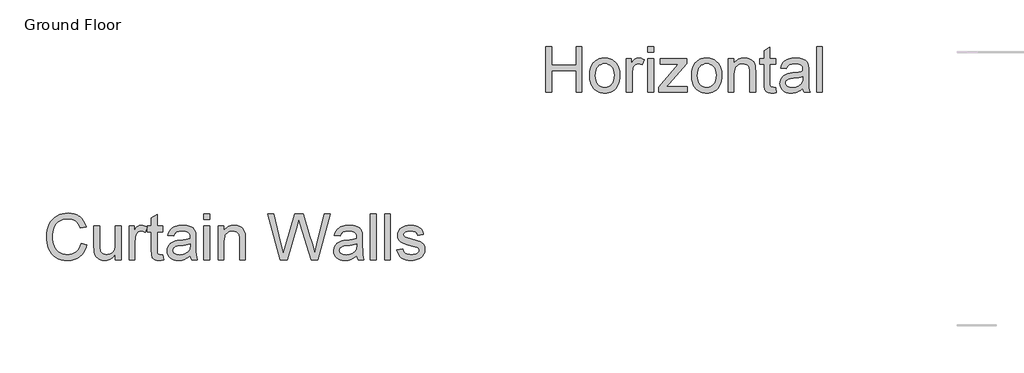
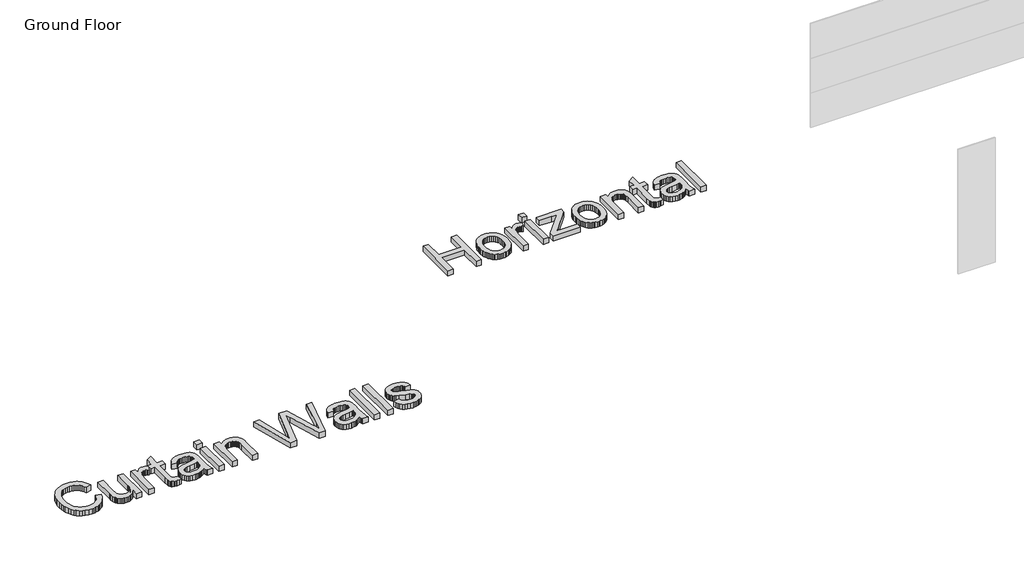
# One storey, part 4 of 5: 2 proxies.
"""IFC4 building model written with IfcOpenShell, lengths in millimetres."""

from ifc_helpers import new_model, si_unit, origin, origin_with_axes, place, context, project, spatial, polyline, outline, extrude, element, save

model = new_model("IFC4")

# Units and contexts
model_context = context("Model", 3, world=origin())
ifc_project = project(units=[si_unit("LENGTHUNIT", "METRE", prefix="MILLI")], contexts=[model_context])

# Site, building, storey
site = spatial("IfcSite", under=ifc_project)
building = spatial("IfcBuilding", under=site)
storey = spatial("IfcBuildingStorey", under=building, Name="Ground Floor", Elevation=0.0)

# Proxies
placement = place(None, origin())
element("IfcBuildingElementProxy", 1, Name="1200mm Arial", ObjectType="1200mm Arial", at=placement, inside=storey, context=model_context, shape_type="SweptSolid", body=[
    extrude(outline(polyline([(-73405.7068137, -17.5087086), (-73258.7977228, -55.3837086), (-73287.8675026, -146.7445929), (-73306.0204234, -188.1008828), (-73326.5853648, -226.5744047), (-73349.5623268, -262.1651584), (-73374.9513094, -294.873144), (-73402.7523126, -324.6983615), (-73432.9653364, -351.6408109), (-73465.2630992, -375.5480597), (-73499.3183194, -396.2676753), (-73535.1309969, -413.7996577), (-73572.7011319, -428.1440069), (-73612.0287242, -439.300723), (-73653.1137739, -447.2698059), (-73695.956281, -452.0512557), (-73740.5562455, -453.6450723), (-73830.1417391, -448.8210311), (-73910.9578791, -434.3489075), (-73983.0046653, -410.2287015), (-74046.2820978, -376.4604132), (-74101.6599387, -333.5461731), (-74150.0079501, -281.988112), (-74191.3261319, -221.7862299), (-74225.6144842, -152.9405268), (-74252.541242, -78.4279203), (-74271.7746404, -1.225328), (-74283.3146795, 78.6672502), (-74287.1613592, 161.2498141), (-74282.8125488, 249.8579462), (-74269.7661177, 332.6198425), (-74248.0220658, 409.535503), (-74217.5803933, 480.6049277), (-74179.122563, 544.6534895), (-74133.3300381, 600.5065612), (-74080.2028187, 648.1641429), (-74019.7409046, 687.6262345), (-73953.9976518, 718.5700378), (-73885.026416, 740.6727544), (-73812.8271972, 753.9343844), (-73737.3999955, 758.3549277), (-73653.3738059, 752.6342246), (-73576.3236461, 735.4721152), (-73540.4145774, 722.6005332), (-73506.2495161, 706.8685996), (-73473.8284623, 688.2763144), (-73443.151416, 666.8236777), (-73414.4784091, 642.7752047), (-73388.0694735, 616.3954107), (-73363.9246093, 587.6842956), (-73342.0438166, 556.6418595), (-73305.0744451, 487.5630243), (-73277.1613592, 409.158905), (-73424.0704501, 374.1532232), (-73447.2043279, 431.9251514), (-73475.0008478, 481.2863908), (-73507.4600097, 522.2369412), (-73544.5818137, 554.7768027), (-73586.5814586, 579.5695051), (-73633.6741433, 597.2785783), (-73685.8598677, 607.9040222), (-73743.1386319, 611.4458368), (-73809.0432839, 607.5184576), (-73869.3168989, 595.7363198), (-73923.9594771, 576.0994235), (-73972.9710183, 548.6077686), (-74015.7328258, 514.4987487), (-74051.6262029, 475.0097573), (-74080.6511496, 430.1407942), (-74102.807666, 379.8918595), (-74119.1896795, 326.5404746), (-74130.8911177, 272.3641607), (-74137.9119806, 217.3629178), (-74140.2522683, 161.5367459), (-74137.4815829, 91.3819164), (-74129.1695268, 25.8179959), (-74115.3160999, -35.1550155), (-74095.9213023, -91.5371177), (-74070.6713023, -142.2074835), (-74039.2522683, -186.0452853), (-74001.6642001, -223.0505233), (-73957.9070978, -253.2231973), (-73910.1060502, -276.6350403), (-73860.3861461, -293.3577853), (-73808.7473854, -303.3914324), (-73755.1897683, -306.7359814), (-73691.3205389, -302.1809388), (-73632.5622825, -288.5158109), (-73578.9149991, -265.7405978), (-73530.3786887, -233.8552995), (-73488.1010786, -193.0033819), (-73453.2298961, -143.3283109), (-73425.7651411, -84.8300865), (-73405.7068137, -17.5087086)])), origin_with_axes(), (0.0, 0.0, 1.0), 150.0),
    extrude(outline(polyline([(-72524.2522683, -435.2814359), (-72524.2522683, -286.9376859), (-72549.7354004, -326.0097296), (-72577.4063876, -359.8721674), (-72607.2652299, -388.5249995), (-72639.3119273, -411.9682257), (-72673.5464799, -430.2018461), (-72709.9688876, -443.2258606), (-72748.5791504, -451.0402694), (-72789.3772683, -453.6450723), (-72825.7727761, -451.8158819), (-72860.9308904, -446.3283109), (-72894.8516113, -437.1823592), (-72927.5349387, -424.3780268), (-72957.5372469, -408.8119757), (-72983.4149103, -391.3808677), (-73005.1679288, -372.084703), (-73022.7963023, -350.9234814), (-73037.2056596, -327.5923379), (-73049.3016291, -301.7864075), (-73066.5534046, -242.7501859), (-73073.0093705, -187.0854132), (-73075.1613592, -106.1706405), (-73075.1613592, 427.8094732), (-72928.2522683, 427.8094732), (-72928.2522683, -37.0200723), (-72926.0285467, -129.9859814), (-72919.3573819, -186.7984814), (-72910.5611283, -213.2769082), (-72897.945095, -236.7604842), (-72881.5092817, -257.2492093), (-72861.2536887, -274.7430836), (-72837.788046, -288.7399764), (-72811.7220836, -298.7377569), (-72783.0558016, -304.7364253), (-72751.7892001, -306.7359814), (-72719.5900701, -304.6915922), (-72688.4131347, -298.5584245), (-72658.258394, -288.3364785), (-72629.1258478, -274.0257541), (-72602.5936212, -256.1911483), (-72580.2398393, -235.3975581), (-72562.0645019, -211.6449835), (-72548.0676092, -184.9334245), (-72537.6483975, -153.5592236), (-72530.2061035, -115.8187228), (-72525.7407271, -71.7119224), (-72524.2522683, -21.2388223), (-72524.2522683, 427.8094732), (-72377.3431773, 427.8094732), (-72377.3431773, -435.2814359), (-72524.2522683, -435.2814359)])), origin_with_axes(), (0.0, 0.0, 1.0), 150.0),
    extrude(outline(polyline([(-72175.3431773, -435.2814359), (-72175.3431773, 427.8094732), (-72046.7977228, 427.8094732), (-72046.7977228, 300.1248141), (-72022.5878506, 340.9408652), (-71999.3105069, 374.1532232), (-71976.9656916, 399.761888), (-71955.5534046, 417.7668595), (-71934.1052512, 430.1945939), (-71911.6528364, 439.071547), (-71888.1961603, 444.3977189), (-71863.7352228, 446.1731095), (-71827.2948819, 443.3396578), (-71790.5676092, 434.8393027), (-71753.5534046, 420.6720442), (-71716.2522683, 400.8378823), (-71765.3176092, 269.1361777), (-71791.1414728, 282.3171081), (-71816.9653364, 291.7320584), (-71842.7892001, 297.3810286), (-71868.6130637, 299.2640186), (-71891.1282448, 297.4527615), (-71912.4777654, 292.0189902), (-71932.6616255, 282.9627047), (-71951.6798251, 270.283905), (-71968.8150346, 254.3950556), (-71983.3499245, 235.7086209), (-71995.2844948, 214.224601), (-72004.6187455, 189.9429959), (-72015.0379572, 149.8442743), (-72022.4802512, 107.8804959), (-72028.4340864, 18.3577686), (-72028.4340864, -435.2814359), (-72175.3431773, -435.2814359)])), origin_with_axes(), (0.0, 0.0, 1.0), 150.0),
    extrude(outline(polyline([(-71312.2522683, -312.7615495), (-71293.8886319, -439.5854132), (-71352.064058, -450.1301575), (-71403.7835183, -453.6450723), (-71441.2819202, -452.120747), (-71474.2970126, -447.5477711), (-71502.8287952, -439.9261447), (-71526.8772683, -429.2558677), (-71547.070095, -416.1108038), (-71564.0349387, -401.0648166), (-71577.7717995, -384.1179061), (-71588.2806773, -365.2700723), (-71596.0637029, -340.002139), (-71601.6230069, -303.7949302), (-71606.0704501, -198.5626859), (-71606.0704501, 280.9003823), (-71716.2522683, 280.9003823), (-71716.2522683, 427.8094732), (-71606.0704501, 427.8094732), (-71606.0704501, 637.5566323), (-71459.1613592, 723.9231095), (-71459.1613592, 427.8094732), (-71312.2522683, 427.8094732), (-71312.2522683, 280.9003823), (-71459.1613592, 280.9003823), (-71459.1613592, -194.2587086), (-71457.2245694, -242.60672), (-71451.4142001, -270.0087086), (-71441.263987, -285.1802285), (-71426.307666, -296.8368336), (-71405.1105779, -304.2611944), (-71376.2380637, -306.7359814), (-71312.2522683, -312.7615495)])), origin_with_axes(), (0.0, 0.0, 1.0), 150.0),
    extrude(outline(polyline([(-70614.4340864, -325.0996177), (-70649.2694025, -357.7919118), (-70684.6247825, -385.2835666), (-70720.5002264, -407.5745822), (-70756.8957342, -424.6649586), (-70794.2237704, -437.3437584), (-70832.8967995, -446.4000439), (-70872.9148215, -451.8338152), (-70914.2778364, -453.6450723), (-70979.6893244, -449.2872953), (-71037.0487881, -436.2139643), (-71086.3562278, -414.4250794), (-71127.6116433, -383.9206405), (-71160.1873712, -346.6374373), (-71183.4557484, -304.5122598), (-71197.4167746, -257.5451078), (-71202.0704501, -205.7359814), (-71200.3129927, -174.5859459), (-71195.0406205, -144.834703), (-71186.2533336, -116.4822527), (-71173.9511319, -89.528595), (-71158.7885786, -64.5655268), (-71141.420237, -42.184845), (-71121.846107, -22.3865495), (-71100.0661887, -5.1706405), (-71051.467112, 22.8052118), (-70997.2011319, 43.033905), (-70944.3339444, 54.2959789), (-70870.0903364, 65.127655), (-70719.8815296, 88.3691323), (-70661.8854359, 101.496263), (-70615.2948819, 115.627655), (-70614.4340864, 148.3378823), (-70616.9626731, 183.9532942), (-70624.548433, 213.9018027), (-70637.1913663, 238.1834078), (-70654.8914728, 256.7981095), (-70685.4855779, 275.3769448), (-70722.7508478, 288.6475414), (-70766.6872825, 296.6098993), (-70817.2948819, 299.2640186), (-70864.3517001, 297.4975946), (-70904.8090864, 292.1983226), (-70938.667041, 283.3662026), (-70965.9255637, 271.0012345), (-70988.3241788, 254.1350236), (-71007.6024103, 231.7991749), (-71023.7602583, 203.9936884), (-71036.7977228, 170.7185641), (-71183.7068137, 189.0822005), (-71172.5254394, 231.4046436), (-71158.2057484, 269.4231095), (-71140.7477406, 303.1375982), (-71120.151416, 332.5481095), (-71095.5290793, 358.2464405), (-71065.9930353, 380.824388), (-71031.5432839, 400.2819519), (-70992.1798251, 416.6191323), (-70948.700688, 429.5489973), (-70901.9039018, 438.7846152), (-70851.7894664, 444.325986), (-70798.3573819, 446.1731095), (-70746.1268244, 444.5411848), (-70699.0431063, 439.6454107), (-70657.1062278, 431.4857871), (-70620.3161887, 420.0623141), (-70588.3681241, 406.1730208), (-70560.9571688, 390.6159362), (-70538.0833229, 373.3910605), (-70519.7465864, 354.4983936), (-70504.8799316, 333.4716713), (-70492.4163308, 309.8446294), (-70474.698291, 254.7895868), (-70469.3183194, 204.002655), (-70467.5249955, 126.2441323), (-70467.5249955, -56.5314359), (-70465.6599387, -215.7427285), (-70460.0647683, -311.7572882), (-70449.0178933, -374.8464217), (-70430.7977228, -435.2814359), (-70577.7068137, -435.2814359), (-70590.7622114, -410.7487655), (-70601.2352228, -384.2075723), (-70614.4340864, -325.0996177)]), holes=[polyline([(-70614.4340864, -31.2814359), (-70658.8367853, -43.9961021), (-70713.1386319, -55.7423734), (-70851.4397683, -76.3297314), (-70927.6560325, -87.5918052), (-70977.8332342, -100.1450723), (-71010.7227938, -116.428453), (-71035.0761319, -138.8808677), (-71050.1400523, -165.7807257), (-71055.1613592, -195.4064359), (-71052.4265403, -218.2354487), (-71044.2220836, -239.0918052), (-71030.5479891, -257.9755055), (-71011.4042569, -274.8865495), (-70986.9702192, -288.820676), (-70957.4252086, -298.7736234), (-70922.7692249, -304.7453919), (-70883.0022683, -306.7359814), (-70842.401416, -304.5391596), (-70804.0960183, -297.9486944), (-70768.0860751, -286.9645858), (-70734.3715864, -271.5868336), (-70703.9568137, -253.088698), (-70677.8460183, -232.7434388), (-70656.0392001, -210.5510559), (-70638.5363592, -186.5115495), (-70628.3682129, -164.9916632), (-70621.1052512, -138.8808677), (-70616.7474742, -108.1791632), (-70615.2948819, -72.8865495), (-70614.4340864, -31.2814359)])]), origin_with_axes(), (0.0, 0.0, 1.0), 150.0),
    extrude(outline(polyline([(-70265.5249955, -435.2814359), (-70265.5249955, 427.8094732), (-70118.6159046, 427.8094732), (-70118.6159046, -435.2814359), (-70265.5249955, -435.2814359)])), origin_with_axes(), (0.0, 0.0, 1.0), 150.0),
    extrude(outline(polyline([(-70265.5249955, 593.0822005), (-70265.5249955, 739.9912914), (-70118.6159046, 739.9912914), (-70118.6159046, 593.0822005), (-70265.5249955, 593.0822005)])), origin_with_axes(), (0.0, 0.0, 1.0), 150.0),
    extrude(outline(polyline([(-69898.2522683, -435.2814359), (-69898.2522683, 427.8094732), (-69751.3431773, 427.8094732), (-69751.3431773, 307.2981095), (-69727.1064053, 339.8469377), (-69700.3051802, 368.055922), (-69670.9395019, 391.9250627), (-69639.0093705, 411.4543595), (-69604.514786, 426.6438127), (-69567.4557484, 437.493422), (-69527.8322576, 444.0031877), (-69485.6443137, 446.1731095), (-69448.6749423, 444.4246188), (-69413.2298961, 439.1791465), (-69379.3091752, 430.4366926), (-69346.9127796, 418.1972573), (-69317.2691362, 403.1154036), (-69291.6066717, 385.8456948), (-69269.9253862, 366.3881309), (-69252.2252796, 344.7427118), (-69225.5047541, 294.9959078), (-69208.1812455, 236.7128823), (-69202.3708762, 180.9763766), (-69200.4340864, 94.6816323), (-69200.4340864, -435.2814359), (-69347.3431773, -435.2814359), (-69347.3431773, 74.8833368), (-69351.5754217, 150.8485357), (-69356.8657271, 180.5997786), (-69364.2721546, 204.8634505), (-69374.3596014, 225.2983759), (-69387.6929643, 243.5633794), (-69404.2722434, 259.6584611), (-69424.0974387, 273.5836209), (-69446.4870871, 284.8187949), (-69470.7597256, 292.8439192), (-69496.9153542, 297.6589938), (-69524.9539728, 299.2640186), (-69569.5629039, 295.6594377), (-69610.9976518, 284.8456948), (-69649.2582164, 266.8227899), (-69684.3445978, 241.5907232), (-69700.0473899, 225.5539245), (-69713.6564764, 206.2801763), (-69725.1718572, 183.7694785), (-69734.5935325, 158.0218311), (-69747.1557661, 96.8156877), (-69751.3431773, 22.6617459), (-69751.3431773, -435.2814359), (-69898.2522683, -435.2814359)])), origin_with_axes(), (0.0, 0.0, 1.0), 150.0),
    extrude(outline(polyline([(-68310.6585183, -435.2814359), (-68631.1613592, 739.9912914), (-68479.6613592, 739.9912914), (-68293.729541, -32.4291632), (-68236.3431773, -270.8695041), (-68174.9397683, -59.9746177), (-67941.9511319, 739.9912914), (-67723.5960183, 739.9912914), (-67554.3062455, 160.1020868), (-67515.6601163, 52.574388), (-67481.7842285, -55.0967768), (-67452.6785822, -162.9114075), (-67428.3431773, -270.8695041), (-67372.6784046, -39.3155268), (-67185.0249955, 739.9912914), (-67033.5249955, 739.9912914), (-67354.3147683, -435.2814359), (-67511.2664728, -435.2814359), (-67793.0335183, 471.4231095), (-67832.3431773, 597.9600414), (-67876.5306773, 445.5992459), (-68133.3346546, -435.2814359), (-68310.6585183, -435.2814359)])), origin_with_axes(), (0.0, 0.0, 1.0), 150.0),
    extrude(outline(polyline([(-66354.0704501, -325.0996177), (-66388.9057661, -357.7919118), (-66424.2611461, -385.2835666), (-66460.13659, -407.5745822), (-66496.5320978, -424.6649586), (-66533.860134, -437.3437584), (-66572.5331631, -446.4000439), (-66612.5511852, -451.8338152), (-66653.9142001, -453.6450723), (-66719.325688, -449.2872953), (-66776.6851518, -436.2139643), (-66825.9925914, -414.4250794), (-66867.2480069, -383.9206405), (-66899.8237349, -346.6374373), (-66923.092112, -304.5122598), (-66937.0531383, -257.5451078), (-66941.7068137, -205.7359814), (-66939.9493563, -174.5859459), (-66934.6769842, -144.834703), (-66925.8896972, -116.4822527), (-66913.5874955, -89.528595), (-66898.4249423, -64.5655268), (-66881.0566006, -42.184845), (-66861.4824707, -22.3865495), (-66839.7025523, -5.1706405), (-66791.1034756, 22.8052118), (-66736.8374955, 43.033905), (-66683.970308, 54.2959789), (-66609.7267001, 65.127655), (-66459.5178933, 88.3691323), (-66401.5217995, 101.496263), (-66354.9312455, 115.627655), (-66354.0704501, 148.3378823), (-66356.5990367, 183.9532942), (-66364.1847967, 213.9018027), (-66376.8277299, 238.1834078), (-66394.5278364, 256.7981095), (-66425.1219416, 275.3769448), (-66462.3872114, 288.6475414), (-66506.3236461, 296.6098993), (-66556.9312455, 299.2640186), (-66603.9880637, 297.4975946), (-66644.4454501, 292.1983226), (-66678.3034046, 283.3662026), (-66705.5619273, 271.0012345), (-66727.9605424, 254.1350236), (-66747.2387739, 231.7991749), (-66763.3966219, 203.9936884), (-66776.4340864, 170.7185641), (-66923.3431773, 189.0822005), (-66912.1618031, 231.4046436), (-66897.842112, 269.4231095), (-66880.3841042, 303.1375982), (-66859.7877796, 332.5481095), (-66835.165443, 358.2464405), (-66805.6293989, 380.824388), (-66771.1796475, 400.2819519), (-66731.8161887, 416.6191323), (-66688.3370516, 429.5489973), (-66641.5402654, 438.7846152), (-66591.42583, 444.325986), (-66537.9937455, 446.1731095), (-66485.763188, 444.5411848), (-66438.67947, 439.6454107), (-66396.7425914, 431.4857871), (-66359.9525523, 420.0623141), (-66328.0044877, 406.1730208), (-66300.5935325, 390.6159362), (-66277.7196866, 373.3910605), (-66259.3829501, 354.4983936), (-66244.5162952, 333.4716713), (-66232.0526944, 309.8446294), (-66214.3346546, 254.7895868), (-66208.954683, 204.002655), (-66207.1613592, 126.2441323), (-66207.1613592, -56.5314359), (-66205.2963023, -215.7427285), (-66199.7011319, -311.7572882), (-66188.6542569, -374.8464217), (-66170.4340864, -435.2814359), (-66317.3431773, -435.2814359), (-66330.3985751, -410.7487655), (-66340.8715864, -384.2075723), (-66354.0704501, -325.0996177)]), holes=[polyline([(-66354.0704501, -31.2814359), (-66398.4731489, -43.9961021), (-66452.7749955, -55.7423734), (-66591.0761319, -76.3297314), (-66667.2923961, -87.5918052), (-66717.4695978, -100.1450723), (-66750.3591575, -116.428453), (-66774.7124955, -138.8808677), (-66789.776416, -165.7807257), (-66794.7977228, -195.4064359), (-66792.0629039, -218.2354487), (-66783.8584472, -239.0918052), (-66770.1843528, -257.9755055), (-66751.0406205, -274.8865495), (-66726.6065829, -288.820676), (-66697.0615722, -298.7736234), (-66662.4055886, -304.7453919), (-66622.6386319, -306.7359814), (-66582.0377796, -304.5391596), (-66543.7323819, -297.9486944), (-66507.7224387, -286.9645858), (-66474.0079501, -271.5868336), (-66443.5931773, -253.088698), (-66417.4823819, -232.7434388), (-66395.6755637, -210.5510559), (-66378.1727228, -186.5115495), (-66368.0045765, -164.9916632), (-66360.7416148, -138.8808677), (-66356.3838379, -108.1791632), (-66354.9312455, -72.8865495), (-66354.0704501, -31.2814359)])]), origin_with_axes(), (0.0, 0.0, 1.0), 150.0),
    extrude(outline(polyline([(-66005.1613592, -435.2814359), (-66005.1613592, 739.9912914), (-65858.2522683, 739.9912914), (-65858.2522683, -435.2814359), (-66005.1613592, -435.2814359)])), origin_with_axes(), (0.0, 0.0, 1.0), 150.0),
    extrude(outline(polyline([(-65637.8886319, -435.2814359), (-65637.8886319, 739.9912914), (-65490.979541, 739.9912914), (-65490.979541, -435.2814359), (-65637.8886319, -435.2814359)])), origin_with_axes(), (0.0, 0.0, 1.0), 150.0),
    extrude(outline(polyline([(-65325.7068137, -178.1905268), (-65178.7977228, -159.8268905), (-65169.9207697, -193.3261802), (-65155.6279785, -222.6649586), (-65135.9193492, -247.8432257), (-65110.7948819, -268.8609814), (-65080.1828435, -285.4312939), (-65044.0115012, -297.2672314), (-65002.2808549, -304.3687939), (-64954.9909046, -306.7359814), (-64907.7547541, -304.5660595), (-64867.0463023, -298.0562939), (-64832.8655495, -287.2066845), (-64805.2124955, -272.0172314), (-64783.8719416, -253.9046603), (-64768.6286887, -234.2856973), (-64759.482737, -213.1603422), (-64756.4340864, -190.528595), (-64759.5006702, -170.6944331), (-64768.7004217, -153.0839927), (-64784.0333407, -137.697274), (-64805.4994273, -124.5342768), (-64860.5186035, -105.8837086), (-64956.7124955, -82.6422314), (-65090.7813876, -43.8705694), (-65177.9369273, -10.7658109), (-65207.858536, 5.8314014), (-65233.9244984, 25.3517317), (-65256.1348144, 47.7951799), (-65274.4894842, 73.1617459), (-65288.8629749, 100.6892672), (-65299.1297541, 129.6155811), (-65305.2898215, 159.9406877), (-65307.3431773, 191.6645868), (-65305.6933194, 220.6716003), (-65300.7437455, 248.5846862), (-65292.4944558, 275.4038446), (-65280.9454501, 301.1290755), (-65266.5450594, 325.2403148), (-65249.7416148, 347.2174987), (-65230.5351163, 367.0606273), (-65208.9255637, 384.7697005), (-65168.3605779, 408.405709), (-65115.5292569, 428.2398709), (-65054.4486461, 441.6897999), (-64989.135791, 446.1731095), (-64939.765585, 444.3708191), (-64893.5157626, 438.9639476), (-64850.3863237, 429.9524952), (-64810.3772683, 417.3364618), (-64774.439058, 401.644878), (-64743.5221546, 383.4067743), (-64717.626558, 362.6221507), (-64696.7522683, 339.2910073), (-64679.823291, 312.5973816), (-64665.7636319, 281.7253112), (-64654.573291, 246.6747963), (-64646.2522683, 207.4458368), (-64793.1613592, 189.0822005), (-64800.1642889, 213.6238375), (-64811.7043279, 235.3140897), (-64827.7814764, 254.1529568), (-64848.3957342, 270.1404391), (-64873.6367675, 282.8820051), (-64903.5942427, 291.9831237), (-64938.2681596, 297.4437949), (-64977.6585183, 299.2640186), (-65023.3524103, 297.5244945), (-65062.0164728, 292.305922), (-65093.6507058, 283.6083013), (-65118.2551092, 271.4316323), (-65136.7084117, 256.9415755), (-65149.8893421, 241.3037914), (-65157.7979004, 224.51828), (-65160.4340864, 206.5850414), (-65156.0583762, 183.9891607), (-65142.9312455, 163.8322005), (-65120.4788308, 145.8272289), (-65088.1272683, 131.408905), (-64961.5903364, 100.1333368), (-64831.7895552, 61.7562061), (-64745.9610751, 30.9827686), (-64715.7615012, 15.9726479), (-64689.0051092, -2.0861234), (-64665.6918989, -23.1935453), (-64645.8218705, -47.3496177), (-64629.9419877, -74.5902072), (-64618.5992143, -104.9511802), (-64611.7935502, -138.4325368), (-64609.5249955, -175.0342768), (-64612.1880815, -211.797416), (-64620.1773393, -247.4845609), (-64633.492769, -282.0957115), (-64652.1343705, -315.6308677), (-64675.7972789, -346.7540034), (-64704.1766291, -374.1290922), (-64737.272421, -397.7561341), (-64775.0846546, -417.6351291), (-64816.5821688, -433.3894792), (-64860.7338023, -444.6425865), (-64907.5395552, -451.3944508), (-64956.9994273, -453.6450723), (-65036.0670765, -449.3052285), (-65105.1279785, -436.2856973), (-65164.1821333, -414.5864785), (-65213.229541, -384.2075723), (-65253.2923961, -345.2924444), (-65285.3928933, -297.9845609), (-65309.5310325, -242.2839217), (-65325.7068137, -178.1905268)])), origin_with_axes(), (0.0, 0.0, 1.0), 150.0),
])
element("IfcBuildingElementProxy", 2, Name="1200mm Arial", ObjectType="1200mm Arial", at=placement, inside=storey, context=model_context, shape_type="SweptSolid", body=[
    extrude(outline(polyline([(-61516.4411736, 3850.5609939), (-61516.4411736, 5025.8337212), (-61369.5320827, 5025.8337212), (-61369.5320827, 4548.3791757), (-60745.1684463, 4548.3791757), (-60745.1684463, 5025.8337212), (-60598.2593554, 5025.8337212), (-60598.2593554, 3850.5609939), (-60745.1684463, 3850.5609939), (-60745.1684463, 4401.4700848), (-61369.5320827, 4401.4700848), (-61369.5320827, 3850.5609939), (-61516.4411736, 3850.5609939)])), origin_with_axes(), (0.0, 0.0, 1.0), 150.0),
    extrude(outline(polyline([(-60396.2593554, 4282.1064484), (-60394.2732492, 4339.9276931), (-60388.3149307, 4393.8843249), (-60378.3843998, 4443.9763437), (-60364.4816565, 4490.2037496), (-60346.6067009, 4532.5665425), (-60324.7595329, 4571.0647226), (-60298.9401526, 4605.6982897), (-60269.1485599, 4636.4672439), (-60241.8810706, 4658.8613756), (-60213.1609889, 4678.2696231), (-60182.9883149, 4694.6919864), (-60151.3630486, 4708.1284655), (-60118.2851899, 4718.5790603), (-60083.7547389, 4726.0437709), (-60010.3360599, 4732.0155393), (-59968.8407874, 4730.1975573), (-59929.2867879, 4724.7436111), (-59891.6740615, 4715.6537007), (-59856.0026082, 4702.9278263), (-59822.272428, 4686.5659877), (-59790.4835209, 4666.5681849), (-59760.6358868, 4642.9344181), (-59732.7295258, 4615.6646871), (-59707.4772842, 4585.1893897), (-59685.5920081, 4551.9389236), (-59667.0736975, 4515.9132888), (-59651.9223525, 4477.1124854), (-59640.1379731, 4435.5365132), (-59631.7205592, 4391.1853724), (-59626.6701109, 4344.059063), (-59624.9866281, 4294.1575848), (-59627.9635457, 4215.5203334), (-59636.8942986, 4145.7421018), (-59651.7788866, 4084.8228902), (-59672.6173099, 4032.7626984), (-59699.1495365, 3987.7951026), (-59731.1155344, 3948.1536785), (-59768.5153035, 3913.8384264), (-59811.348844, 3884.8493462), (-59857.9483646, 3861.8141011), (-59906.6460741, 3845.3603547), (-59957.4419726, 3835.4881068), (-60010.3360599, 3832.1973575), (-60052.4858957, 3834.0086146), (-60092.5689257, 3839.4423859), (-60130.5851499, 3848.4986714), (-60166.5345684, 3861.1774712), (-60200.4171812, 3877.4787851), (-60232.2329882, 3897.4026132), (-60261.9819894, 3920.9489555), (-60289.6641849, 3948.1178121), (-60314.647428, 3978.6939839), (-60336.299572, 4012.4622723), (-60354.6206169, 4049.4226771), (-60369.6105628, 4089.5751984), (-60381.2694095, 4132.9198362), (-60389.5971572, 4179.4565905), (-60394.5938058, 4229.1854612), (-60396.2593554, 4282.1064484)]), holes=[polyline([(-60249.3502645, 4282.3933802), (-60245.1000869, 4211.1356565), (-60232.3495542, 4149.436349), (-60211.0986665, 4097.2954577), (-60181.3474236, 4054.7129825), (-60145.158148, 4021.6351239), (-60104.5931622, 3998.008082), (-60059.6524662, 3983.8318568), (-60010.3360599, 3979.1064484), (-59961.270719, 3983.8587567), (-59916.5093554, 3998.1156814), (-59876.051969, 4021.8772226), (-59839.8985599, 4055.1433802), (-59810.147317, 4098.1472865), (-59788.8964292, 4151.1220734), (-59776.1458966, 4214.067741), (-59771.895719, 4286.9842893), (-59776.1727964, 4355.982425), (-59789.0040287, 4416.067741), (-59810.3894157, 4467.2402375), (-59840.3289577, 4509.4999143), (-59876.616866, 4542.577773), (-59917.0473525, 4566.2048149), (-59961.6204172, 4580.3810401), (-60010.3360599, 4585.1064484), (-60059.6524662, 4580.3989733), (-60104.5931622, 4566.2765479), (-60145.158148, 4542.7391722), (-60181.3474236, 4509.7868462), (-60211.0986665, 4467.3299037), (-60232.3495542, 4415.2786785), (-60245.1000869, 4353.6331707), (-60249.3502645, 4282.3933802)])]), origin_with_axes(), (0.0, 0.0, 1.0), 150.0),
    extrude(outline(polyline([(-59459.7139008, 3850.5609939), (-59459.7139008, 4713.651903), (-59331.1684463, 4713.651903), (-59331.1684463, 4585.9672439), (-59306.9585741, 4626.783295), (-59283.6812304, 4659.995653), (-59261.336415, 4685.6043177), (-59239.9241281, 4703.6092893), (-59218.4759747, 4716.0370237), (-59196.0235599, 4724.9139768), (-59172.5668838, 4730.2401487), (-59148.1059463, 4732.0155393), (-59111.6656054, 4729.1820876), (-59074.9383327, 4720.6817325), (-59037.9241281, 4706.514474), (-59000.6229917, 4686.6803121), (-59049.6883327, 4554.9786075), (-59075.5121963, 4568.1595379), (-59101.3360599, 4577.5744882), (-59127.1599236, 4583.2234584), (-59152.9837872, 4585.1064484), (-59175.4989683, 4583.2951913), (-59196.8484889, 4577.86142), (-59217.032349, 4568.8051345), (-59236.0505486, 4556.1263348), (-59253.1857581, 4540.2374854), (-59267.720648, 4521.5510507), (-59279.6552183, 4500.0670308), (-59288.989469, 4475.7854257), (-59299.4086807, 4435.6867041), (-59306.8509747, 4393.7229257), (-59312.8048099, 4304.2001984), (-59312.8048099, 3850.5609939), (-59459.7139008, 3850.5609939)])), origin_with_axes(), (0.0, 0.0, 1.0), 150.0),
    extrude(outline(polyline([(-58908.8048099, 4878.9246302), (-58908.8048099, 5025.8337212), (-58761.895719, 5025.8337212), (-58761.895719, 4878.9246302), (-58908.8048099, 4878.9246302)])), origin_with_axes(), (0.0, 0.0, 1.0), 150.0),
    extrude(outline(polyline([(-58908.8048099, 3850.5609939), (-58908.8048099, 4713.651903), (-58761.895719, 4713.651903), (-58761.895719, 3850.5609939), (-58908.8048099, 3850.5609939)])), origin_with_axes(), (0.0, 0.0, 1.0), 150.0),
    extrude(outline(polyline([(-58633.3502645, 3850.5609939), (-58633.3502645, 3988.8621302), (-58126.3417417, 4566.7428121), (-58276.4070827, 4566.7428121), (-58596.6229917, 4566.7428121), (-58596.6229917, 4713.651903), (-57917.1684463, 4713.651903), (-57917.1684463, 4588.8365621), (-58366.7906054, 4076.089403), (-58435.6542417, 3997.4700848), (-58265.7906054, 3997.4700848), (-57898.8048099, 3997.4700848), (-57898.8048099, 3850.5609939), (-58633.3502645, 3850.5609939)])), origin_with_axes(), (0.0, 0.0, 1.0), 150.0),
    extrude(outline(polyline([(-57788.6229917, 4282.1064484), (-57786.6368856, 4339.9276931), (-57780.678567, 4393.8843249), (-57770.7480361, 4443.9763437), (-57756.8452929, 4490.2037496), (-57738.9703373, 4532.5665425), (-57717.1231693, 4571.0647226), (-57691.303789, 4605.6982897), (-57661.5121963, 4636.4672439), (-57634.2447069, 4658.8613756), (-57605.5246253, 4678.2696231), (-57575.3519513, 4694.6919864), (-57543.7266849, 4708.1284655), (-57510.6488263, 4718.5790603), (-57476.1183753, 4726.0437709), (-57402.6996963, 4732.0155393), (-57361.2044237, 4730.1975573), (-57321.6504243, 4724.7436111), (-57284.0376979, 4715.6537007), (-57248.3662446, 4702.9278263), (-57214.6360644, 4686.5659877), (-57182.8471572, 4666.5681849), (-57152.9995232, 4642.9344181), (-57125.0931622, 4615.6646871), (-57099.8409205, 4585.1893897), (-57077.9556444, 4551.9389236), (-57059.4373339, 4515.9132888), (-57044.2859889, 4477.1124854), (-57032.5016095, 4435.5365132), (-57024.0841956, 4391.1853724), (-57019.0337472, 4344.059063), (-57017.3502645, 4294.1575848), (-57020.3271821, 4215.5203334), (-57029.2579349, 4145.7421018), (-57044.142523, 4084.8228902), (-57064.9809463, 4032.7626984), (-57091.5131728, 3987.7951026), (-57123.4791707, 3948.1536785), (-57160.8789399, 3913.8384264), (-57203.7124804, 3884.8493462), (-57250.312001, 3861.8141011), (-57299.0097105, 3845.3603547), (-57349.8056089, 3835.4881068), (-57402.6996963, 3832.1973575), (-57444.849532, 3834.0086146), (-57484.9325621, 3839.4423859), (-57522.9487863, 3848.4986714), (-57558.8982048, 3861.1774712), (-57592.7808176, 3877.4787851), (-57624.5966246, 3897.4026132), (-57654.3456258, 3920.9489555), (-57682.0278213, 3948.1178121), (-57707.0110644, 3978.6939839), (-57728.6632084, 4012.4622723), (-57746.9842533, 4049.4226771), (-57761.9741991, 4089.5751984), (-57773.6330459, 4132.9198362), (-57781.9607936, 4179.4565905), (-57786.9574422, 4229.1854612), (-57788.6229917, 4282.1064484)]), holes=[polyline([(-57641.7139008, 4282.3933802), (-57637.4637233, 4211.1356565), (-57624.7131906, 4149.436349), (-57603.4623028, 4097.2954577), (-57573.7110599, 4054.7129825), (-57537.5217844, 4021.6351239), (-57496.9567986, 3998.008082), (-57452.0161025, 3983.8318568), (-57402.6996963, 3979.1064484), (-57353.6343554, 3983.8587567), (-57308.8729917, 3998.1156814), (-57268.4156054, 4021.8772226), (-57232.2621963, 4055.1433802), (-57202.5109534, 4098.1472865), (-57181.2600656, 4151.1220734), (-57168.5095329, 4214.067741), (-57164.2593554, 4286.9842893), (-57168.5364328, 4355.982425), (-57181.367665, 4416.067741), (-57202.7530521, 4467.2402375), (-57232.692594, 4509.4999143), (-57268.9805024, 4542.577773), (-57309.4109889, 4566.2048149), (-57353.9840535, 4580.3810401), (-57402.6996963, 4585.1064484), (-57452.0161025, 4580.3989733), (-57496.9567986, 4566.2765479), (-57537.5217844, 4542.7391722), (-57573.7110599, 4509.7868462), (-57603.4623028, 4467.3299037), (-57624.7131906, 4415.2786785), (-57637.4637233, 4353.6331707), (-57641.7139008, 4282.3933802)])]), origin_with_axes(), (0.0, 0.0, 1.0), 150.0),
    extrude(outline(polyline([(-56852.0775372, 3850.5609939), (-56852.0775372, 4713.651903), (-56705.1684463, 4713.651903), (-56705.1684463, 4593.1405393), (-56680.9316743, 4625.6893675), (-56654.1304491, 4653.8983518), (-56624.7647709, 4677.7674925), (-56592.8346395, 4697.2967893), (-56558.340055, 4712.4862425), (-56521.2810173, 4723.3358518), (-56481.6575265, 4729.8456175), (-56439.4695827, 4732.0155393), (-56402.5002112, 4730.2670486), (-56367.055165, 4725.0215763), (-56333.1344442, 4716.2791224), (-56300.7380486, 4704.0396871), (-56271.0944051, 4688.9578334), (-56245.4319406, 4671.6881246), (-56223.7506551, 4652.2305606), (-56206.0505486, 4630.5851416), (-56179.330023, 4580.8383376), (-56162.0065145, 4522.5553121), (-56156.1961452, 4466.8188064), (-56154.2593554, 4380.5240621), (-56154.2593554, 3850.5609939), (-56301.1684463, 3850.5609939), (-56301.1684463, 4360.7257666), (-56305.4006906, 4436.6909655), (-56310.690996, 4466.4422084), (-56318.0974236, 4490.7058802), (-56328.1848703, 4511.1408057), (-56341.5182332, 4529.4058092), (-56358.0975123, 4545.5008909), (-56377.9227077, 4559.4260507), (-56400.3123561, 4570.6612247), (-56424.5849946, 4578.686349), (-56450.7406231, 4583.5014236), (-56478.7792417, 4585.1064484), (-56523.3881728, 4581.5018675), (-56564.8229207, 4570.6881246), (-56603.0834853, 4552.6652197), (-56638.1698667, 4527.433153), (-56653.8726588, 4511.3963543), (-56667.4817453, 4492.1226061), (-56678.9971262, 4469.6119083), (-56688.4188014, 4443.8642609), (-56700.9810351, 4382.6581175), (-56705.1684463, 4308.5041757), (-56705.1684463, 3850.5609939), (-56852.0775372, 3850.5609939)])), origin_with_axes(), (0.0, 0.0, 1.0), 150.0),
    extrude(outline(polyline([(-55640.0775372, 3973.0808802), (-55621.7139008, 3846.2570166), (-55679.889327, 3835.7122723), (-55731.6087872, 3832.1973575), (-55769.1071892, 3833.7216828), (-55802.1222815, 3838.2946587), (-55830.6540642, 3845.9162851), (-55854.7025372, 3856.5865621), (-55874.8953639, 3869.731626), (-55891.8602077, 3884.7776132), (-55905.5970684, 3901.7245237), (-55916.1059463, 3920.5723575), (-55923.8889719, 3945.8402908), (-55929.4482758, 3982.0474996), (-55933.895719, 4087.2797439), (-55933.895719, 4566.7428121), (-56044.0775372, 4566.7428121), (-56044.0775372, 4713.651903), (-55933.895719, 4713.651903), (-55933.895719, 4923.3990621), (-55786.9866281, 5009.7655393), (-55786.9866281, 4713.651903), (-55640.0775372, 4713.651903), (-55640.0775372, 4566.7428121), (-55786.9866281, 4566.7428121), (-55786.9866281, 4091.5837212), (-55785.0498383, 4043.2357098), (-55779.239469, 4015.8337212), (-55769.0892559, 4000.6622013), (-55754.1329349, 3989.0055962), (-55732.9358469, 3981.5812354), (-55704.0633327, 3979.1064484), (-55640.0775372, 3973.0808802)])), origin_with_axes(), (0.0, 0.0, 1.0), 150.0),
    extrude(outline(polyline([(-54942.2593554, 3960.7428121), (-54977.0946714, 3928.050518), (-55012.4500514, 3900.5588632), (-55048.3254953, 3878.2678476), (-55084.7210031, 3861.1774712), (-55122.0490393, 3848.4986714), (-55160.7220684, 3839.4423859), (-55200.7400905, 3834.0086146), (-55242.1031054, 3832.1973575), (-55307.5145933, 3836.5551345), (-55364.8740571, 3849.6284655), (-55414.1814967, 3871.4173504), (-55455.4369122, 3901.9217893), (-55488.0126402, 3939.2049925), (-55511.2810173, 3981.33017), (-55525.2420436, 4028.297322), (-55529.895719, 4080.1064484), (-55528.1382616, 4111.2564839), (-55522.8658895, 4141.0077268), (-55514.0786025, 4169.3601771), (-55501.7764008, 4196.3138348), (-55486.6138476, 4221.276903), (-55469.2455059, 4243.6575848), (-55449.671376, 4263.4558802), (-55427.8914577, 4280.6717893), (-55379.2923809, 4308.6476416), (-55325.0264008, 4328.8763348), (-55272.1592133, 4340.1384087), (-55197.9156054, 4350.9700848), (-55047.7067986, 4374.2115621), (-54989.7107048, 4387.3386927), (-54943.1201508, 4401.4700848), (-54942.2593554, 4434.1803121), (-54944.787942, 4469.795724), (-54952.373702, 4499.7442325), (-54965.0166352, 4524.0258376), (-54982.7167417, 4542.6405393), (-55013.3108469, 4561.2193746), (-55050.5761167, 4574.4899712), (-55094.5125514, 4582.4523291), (-55145.1201508, 4585.1064484), (-55192.176969, 4583.3400244), (-55232.6343554, 4578.0407524), (-55266.4923099, 4569.2086324), (-55293.7508327, 4556.8436643), (-55316.1494477, 4539.9774534), (-55335.4276792, 4517.6416047), (-55351.5855273, 4489.8361182), (-55364.6229917, 4456.5609939), (-55511.5320827, 4474.9246302), (-55500.3507084, 4517.2470734), (-55486.0310173, 4555.2655393), (-55468.5730095, 4588.980028), (-55447.9766849, 4618.3905393), (-55423.3543483, 4644.0888703), (-55393.8183042, 4666.6668177), (-55359.3685528, 4686.1243817), (-55320.005094, 4702.4615621), (-55276.5259569, 4715.3914271), (-55229.7291707, 4724.627045), (-55179.6147353, 4730.1684158), (-55126.1826508, 4732.0155393), (-55073.9520933, 4730.3836146), (-55026.8683753, 4725.4878405), (-54984.9314967, 4717.3282169), (-54948.1414577, 4705.9047439), (-54916.193393, 4692.0154506), (-54888.7824378, 4676.458366), (-54865.9085919, 4659.2334903), (-54847.5718554, 4640.3408234), (-54832.7052005, 4619.3141011), (-54820.2415997, 4595.6870592), (-54802.5235599, 4540.6320166), (-54797.1435883, 4489.8450848), (-54795.3502645, 4412.0865621), (-54795.3502645, 4229.3109939), (-54793.4852077, 4070.0997013), (-54787.8900372, 3974.0851416), (-54776.8431622, 3910.9960081), (-54758.6229917, 3850.5609939), (-54905.5320827, 3850.5609939), (-54918.5874804, 3875.0936643), (-54929.0604917, 3901.6348575), (-54942.2593554, 3960.7428121)]), holes=[polyline([(-54942.2593554, 4254.5609939), (-54986.6620542, 4241.8463277), (-55040.9639008, 4230.1000564), (-55179.2650372, 4209.5126984), (-55255.4813014, 4198.2506246), (-55305.6585031, 4185.6973575), (-55338.5480628, 4169.4139768), (-55362.9014008, 4146.9615621), (-55377.9653213, 4120.0617041), (-55382.9866281, 4090.4359939), (-55380.2518092, 4067.6069811), (-55372.0473525, 4046.7506246), (-55358.3732581, 4027.8669243), (-55339.2295258, 4010.9558802), (-55314.7954882, 3997.0217538), (-55285.2504775, 3987.0688064), (-55250.5944939, 3981.0970379), (-55210.8275372, 3979.1064484), (-55170.2266849, 3981.3032702), (-55131.9212872, 3987.8937354), (-55095.911344, 3998.877844), (-55062.1968554, 4014.2555962), (-55031.7820827, 4032.7537318), (-55005.6712872, 4053.098991), (-54983.864469, 4075.2913739), (-54966.3616281, 4099.3308802), (-54956.1934818, 4120.8507666), (-54948.9305202, 4146.9615621), (-54944.5727432, 4177.6632666), (-54943.1201508, 4212.9558802), (-54942.2593554, 4254.5609939)])]), origin_with_axes(), (0.0, 0.0, 1.0), 150.0),
    extrude(outline(polyline([(-54593.3502645, 3850.5609939), (-54593.3502645, 5025.8337212), (-54446.4411736, 5025.8337212), (-54446.4411736, 3850.5609939), (-54593.3502645, 3850.5609939)])), origin_with_axes(), (0.0, 0.0, 1.0), 150.0),
])

save(model, "model.ifc")
